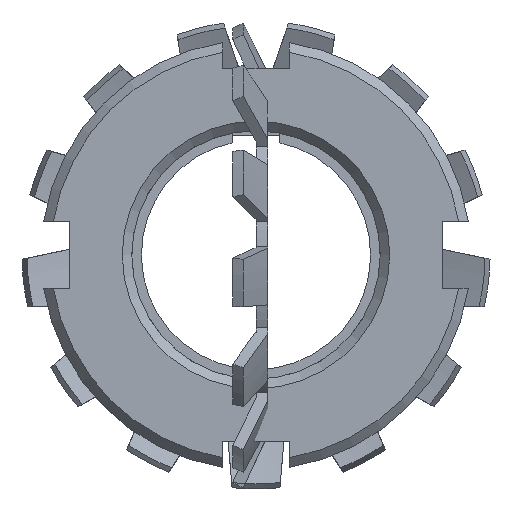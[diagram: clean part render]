
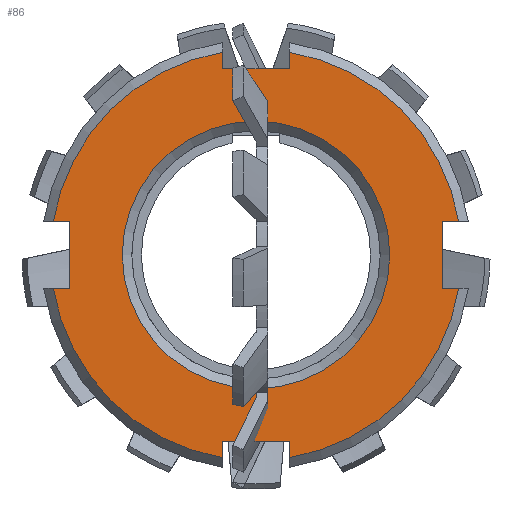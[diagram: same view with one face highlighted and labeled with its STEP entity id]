
A CAD part, front view. The second image highlights one B-rep face of the part: STEP entity #86.
In plain terms, the highlighted planar face has unit normal (0, -1, 0).
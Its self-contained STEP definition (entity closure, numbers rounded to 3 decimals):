
#86 = ADVANCED_FACE( '', ( #187, #188 ), #189, .F. );
#187 = FACE_BOUND( '', #317, .T. );
#188 = FACE_OUTER_BOUND( '', #318, .T. );
#189 = PLANE( '', #319 );
#317 = EDGE_LOOP( '', ( #541 ) );
#318 = EDGE_LOOP( '', ( #542, #543, #544, #545, #546, #547, #548, #549, #550, #551, #552, #553, #554, #555, #556, #557 ) );
#319 = AXIS2_PLACEMENT_3D( '', #558, #559, #560 );
#541 = ORIENTED_EDGE( '', *, *, #1027, .F. );
#542 = ORIENTED_EDGE( '', *, *, #1028, .F. );
#543 = ORIENTED_EDGE( '', *, *, #1018, .T. );
#544 = ORIENTED_EDGE( '', *, *, #1029, .T. );
#545 = ORIENTED_EDGE( '', *, *, #1030, .T. );
#546 = ORIENTED_EDGE( '', *, *, #1031, .F. );
#547 = ORIENTED_EDGE( '', *, *, #1032, .T. );
#548 = ORIENTED_EDGE( '', *, *, #1033, .T. );
#549 = ORIENTED_EDGE( '', *, *, #1034, .T. );
#550 = ORIENTED_EDGE( '', *, *, #1035, .F. );
#551 = ORIENTED_EDGE( '', *, *, #1036, .T. );
#552 = ORIENTED_EDGE( '', *, *, #1037, .T. );
#553 = ORIENTED_EDGE( '', *, *, #1038, .T. );
#554 = ORIENTED_EDGE( '', *, *, #1039, .F. );
#555 = ORIENTED_EDGE( '', *, *, #1040, .T. );
#556 = ORIENTED_EDGE( '', *, *, #1013, .T. );
#557 = ORIENTED_EDGE( '', *, *, #1041, .T. );
#558 = CARTESIAN_POINT( '', ( 0., -10.25, 22.5 ) );
#559 = DIRECTION( '', ( 0., 1., 0. ) );
#560 = DIRECTION( '', ( 0., 0., 1. ) );
#1013 = EDGE_CURVE( '', #1317, #1315, #1318, .T. );
#1018 = EDGE_CURVE( '', #1326, #1324, #1327, .T. );
#1027 = EDGE_CURVE( '', #1341, #1341, #1342, .T. );
#1028 = EDGE_CURVE( '', #1326, #1343, #1344, .T. );
#1029 = EDGE_CURVE( '', #1324, #1345, #1346, .T. );
#1030 = EDGE_CURVE( '', #1345, #1347, #1348, .F. );
#1031 = EDGE_CURVE( '', #1349, #1347, #1350, .T. );
#1032 = EDGE_CURVE( '', #1349, #1351, #1352, .T. );
#1033 = EDGE_CURVE( '', #1351, #1353, #1354, .T. );
#1034 = EDGE_CURVE( '', #1353, #1355, #1356, .F. );
#1035 = EDGE_CURVE( '', #1357, #1355, #1358, .T. );
#1036 = EDGE_CURVE( '', #1357, #1359, #1360, .T. );
#1037 = EDGE_CURVE( '', #1359, #1361, #1362, .T. );
#1038 = EDGE_CURVE( '', #1361, #1363, #1364, .F. );
#1039 = EDGE_CURVE( '', #1365, #1363, #1366, .T. );
#1040 = EDGE_CURVE( '', #1365, #1317, #1367, .T. );
#1041 = EDGE_CURVE( '', #1315, #1343, #1368, .F. );
#1315 = VERTEX_POINT( '', #2250 );
#1317 = VERTEX_POINT( '', #2255 );
#1318 = LINE( '', #2256, #2257 );
#1324 = VERTEX_POINT( '', #2267 );
#1326 = VERTEX_POINT( '', #2270 );
#1327 = LINE( '', #2271, #2272 );
#1341 = VERTEX_POINT( '', #2296 );
#1342 = CIRCLE( '', #2297, 14. );
#1343 = VERTEX_POINT( '', #2298 );
#1344 = LINE( '', #2299, #2300 );
#1345 = VERTEX_POINT( '', #2301 );
#1346 = LINE( '', #2302, #2303 );
#1347 = VERTEX_POINT( '', #2304 );
#1348 = CIRCLE( '', #2305, 21.5 );
#1349 = VERTEX_POINT( '', #2306 );
#1350 = LINE( '', #2307, #2308 );
#1351 = VERTEX_POINT( '', #2309 );
#1352 = LINE( '', #2310, #2311 );
#1353 = VERTEX_POINT( '', #2312 );
#1354 = LINE( '', #2313, #2314 );
#1355 = VERTEX_POINT( '', #2315 );
#1356 = CIRCLE( '', #2316, 21.5 );
#1357 = VERTEX_POINT( '', #2317 );
#1358 = LINE( '', #2318, #2319 );
#1359 = VERTEX_POINT( '', #2320 );
#1360 = LINE( '', #2321, #2322 );
#1361 = VERTEX_POINT( '', #2323 );
#1362 = LINE( '', #2324, #2325 );
#1363 = VERTEX_POINT( '', #2326 );
#1364 = CIRCLE( '', #2327, 21.5 );
#1365 = VERTEX_POINT( '', #2328 );
#1366 = LINE( '', #2329, #2330 );
#1367 = LINE( '', #2331, #2332 );
#1368 = CIRCLE( '', #2333, 21.5 );
#2250 = CARTESIAN_POINT( '', ( -3.5, -10.25, 21.213 ) );
#2255 = CARTESIAN_POINT( '', ( -3.5, -10.25, 19.5 ) );
#2256 = CARTESIAN_POINT( '', ( -3.5, -10.25, 22.5 ) );
#2257 = VECTOR( '', #2818, 1000. );
#2267 = CARTESIAN_POINT( '', ( -19.5, -10.25, -3.5 ) );
#2270 = CARTESIAN_POINT( '', ( -19.5, -10.25, 3.5 ) );
#2271 = CARTESIAN_POINT( '', ( -19.5, -10.25, 3.5 ) );
#2272 = VECTOR( '', #2821, 1000. );
#2296 = CARTESIAN_POINT( '', ( 0., -10.25, -14. ) );
#2297 = AXIS2_PLACEMENT_3D( '', #2831, #2832, #2833 );
#2298 = CARTESIAN_POINT( '', ( -21.213, -10.25, 3.5 ) );
#2299 = CARTESIAN_POINT( '', ( -22.5, -10.25, 3.5 ) );
#2300 = VECTOR( '', #2834, 1000. );
#2301 = CARTESIAN_POINT( '', ( -21.213, -10.25, -3.5 ) );
#2302 = CARTESIAN_POINT( '', ( -22.5, -10.25, -3.5 ) );
#2303 = VECTOR( '', #2835, 1000. );
#2304 = CARTESIAN_POINT( '', ( -3.5, -10.25, -21.213 ) );
#2305 = AXIS2_PLACEMENT_3D( '', #2836, #2837, #2838 );
#2306 = CARTESIAN_POINT( '', ( -3.5, -10.25, -19.5 ) );
#2307 = CARTESIAN_POINT( '', ( -3.5, -10.25, -22.5 ) );
#2308 = VECTOR( '', #2839, 1000. );
#2309 = CARTESIAN_POINT( '', ( 3.5, -10.25, -19.5 ) );
#2310 = CARTESIAN_POINT( '', ( -3.5, -10.25, -19.5 ) );
#2311 = VECTOR( '', #2840, 1000. );
#2312 = CARTESIAN_POINT( '', ( 3.5, -10.25, -21.213 ) );
#2313 = CARTESIAN_POINT( '', ( 3.5, -10.25, -22.5 ) );
#2314 = VECTOR( '', #2841, 1000. );
#2315 = CARTESIAN_POINT( '', ( 21.213, -10.25, -3.5 ) );
#2316 = AXIS2_PLACEMENT_3D( '', #2842, #2843, #2844 );
#2317 = CARTESIAN_POINT( '', ( 19.5, -10.25, -3.5 ) );
#2318 = CARTESIAN_POINT( '', ( 22.5, -10.25, -3.5 ) );
#2319 = VECTOR( '', #2845, 1000. );
#2320 = CARTESIAN_POINT( '', ( 19.5, -10.25, 3.5 ) );
#2321 = CARTESIAN_POINT( '', ( 19.5, -10.25, -3.5 ) );
#2322 = VECTOR( '', #2846, 1000. );
#2323 = CARTESIAN_POINT( '', ( 21.213, -10.25, 3.5 ) );
#2324 = CARTESIAN_POINT( '', ( 22.5, -10.25, 3.5 ) );
#2325 = VECTOR( '', #2847, 1000. );
#2326 = CARTESIAN_POINT( '', ( 3.5, -10.25, 21.213 ) );
#2327 = AXIS2_PLACEMENT_3D( '', #2848, #2849, #2850 );
#2328 = CARTESIAN_POINT( '', ( 3.5, -10.25, 19.5 ) );
#2329 = CARTESIAN_POINT( '', ( 3.5, -10.25, 22.5 ) );
#2330 = VECTOR( '', #2851, 1000. );
#2331 = CARTESIAN_POINT( '', ( 3.5, -10.25, 19.5 ) );
#2332 = VECTOR( '', #2852, 1000. );
#2333 = AXIS2_PLACEMENT_3D( '', #2853, #2854, #2855 );
#2818 = DIRECTION( '', ( 0., 0., 1. ) );
#2821 = DIRECTION( '', ( 0., 0., -1. ) );
#2831 = CARTESIAN_POINT( '', ( 0., -10.25, 0. ) );
#2832 = DIRECTION( '', ( 0., -1., 0. ) );
#2833 = DIRECTION( '', ( 0., 0., -1. ) );
#2834 = DIRECTION( '', ( -1., 0., 0. ) );
#2835 = DIRECTION( '', ( -1., 0., 0. ) );
#2836 = CARTESIAN_POINT( '', ( 0., -10.25, 0. ) );
#2837 = DIRECTION( '', ( 0., 1., 0. ) );
#2838 = DIRECTION( '', ( 0., 0., 1. ) );
#2839 = DIRECTION( '', ( 0., 0., -1. ) );
#2840 = DIRECTION( '', ( 1., 0., 0. ) );
#2841 = DIRECTION( '', ( 0., 0., -1. ) );
#2842 = CARTESIAN_POINT( '', ( 0., -10.25, 0. ) );
#2843 = DIRECTION( '', ( 0., 1., 0. ) );
#2844 = DIRECTION( '', ( 0., 0., 1. ) );
#2845 = DIRECTION( '', ( 1., 0., 0. ) );
#2846 = DIRECTION( '', ( 0., 0., 1. ) );
#2847 = DIRECTION( '', ( 1., 0., 0. ) );
#2848 = CARTESIAN_POINT( '', ( 0., -10.25, 0. ) );
#2849 = DIRECTION( '', ( 0., 1., 0. ) );
#2850 = DIRECTION( '', ( 0., 0., 1. ) );
#2851 = DIRECTION( '', ( 0., 0., 1. ) );
#2852 = DIRECTION( '', ( -1., 0., 0. ) );
#2853 = CARTESIAN_POINT( '', ( 0., -10.25, 0. ) );
#2854 = DIRECTION( '', ( 0., 1., 0. ) );
#2855 = DIRECTION( '', ( 0., 0., 1. ) );
